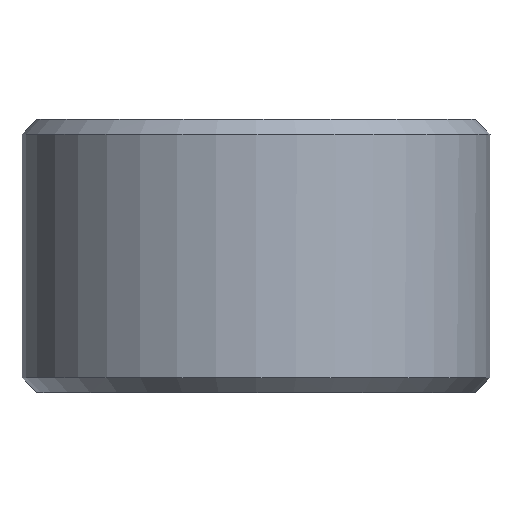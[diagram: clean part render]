
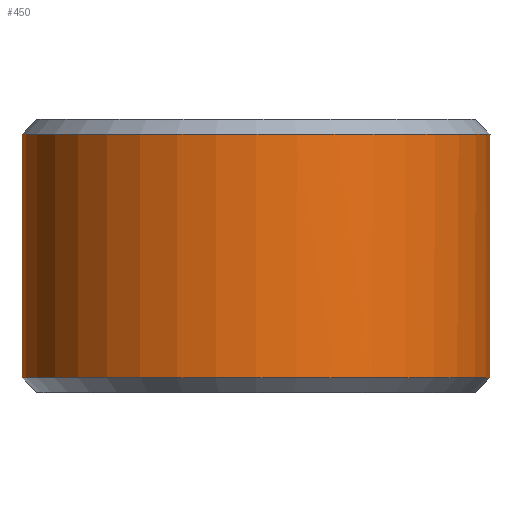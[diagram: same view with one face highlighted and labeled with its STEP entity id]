
A CAD part, left-side view. The second image highlights one B-rep face of the part: STEP entity #450.
In plain terms, the highlighted cylindrical face has radius 2.4 mm (diameter 4.8 mm), a full revolution.
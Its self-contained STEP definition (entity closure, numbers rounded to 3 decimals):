
#77 = PLANE('',#78);
#78 = AXIS2_PLACEMENT_3D('',#79,#80,#81);
#79 = CARTESIAN_POINT('',(-29.,38.5,190.2));
#80 = DIRECTION('',(0.,-1.,0.));
#81 = DIRECTION('',(-1.,0.,0.));
#106 = CONICAL_SURFACE('',#107,2.325,0.785);
#107 = AXIS2_PLACEMENT_3D('',#108,#109,#110);
#108 = CARTESIAN_POINT('',(-32.,39.,190.275));
#109 = DIRECTION('',(0.,0.,1.));
#110 = DIRECTION('',(-1.,0.,0.));
#132 = PLANE('',#133);
#133 = AXIS2_PLACEMENT_3D('',#134,#135,#136);
#134 = CARTESIAN_POINT('',(-32.,39.5,190.2));
#135 = DIRECTION('',(0.,1.,0.));
#136 = DIRECTION('',(1.,0.,0.));
#148 = VERTEX_POINT('',#149);
#149 = CARTESIAN_POINT('',(-29.653,39.5,190.35));
#171 = EDGE_CURVE('',#172,#148,#174,.T.);
#172 = VERTEX_POINT('',#173);
#173 = CARTESIAN_POINT('',(-29.653,39.5,190.7));
#174 = SURFACE_CURVE('',#175,(#179,#186),.PCURVE_S1.);
#175 = LINE('',#176,#177);
#176 = CARTESIAN_POINT('',(-29.653,39.5,190.2));
#177 = VECTOR('',#178,1.);
#178 = DIRECTION('',(0.,0.,-1.));
#179 = PCURVE('',#132,#180);
#180 = DEFINITIONAL_REPRESENTATION('',(#181),#185);
#181 = LINE('',#182,#183);
#182 = CARTESIAN_POINT('',(2.347,0.));
#183 = VECTOR('',#184,1.);
#184 = DIRECTION('',(0.,1.));
#185 = ( GEOMETRIC_REPRESENTATION_CONTEXT(2) 
PARAMETRIC_REPRESENTATION_CONTEXT() REPRESENTATION_CONTEXT('2D SPACE',''
  ) );
#186 = PCURVE('',#187,#192);
#187 = CYLINDRICAL_SURFACE('',#188,2.4);
#188 = AXIS2_PLACEMENT_3D('',#189,#190,#191);
#189 = CARTESIAN_POINT('',(-32.,39.,190.2));
#190 = DIRECTION('',(0.,0.,1.));
#191 = DIRECTION('',(0.,1.,0.));
#192 = DEFINITIONAL_REPRESENTATION('',(#193),#197);
#193 = LINE('',#194,#195);
#194 = CARTESIAN_POINT('',(4.922,0.));
#195 = VECTOR('',#196,1.);
#196 = DIRECTION('',(0.,-1.));
#197 = ( GEOMETRIC_REPRESENTATION_CONTEXT(2) 
PARAMETRIC_REPRESENTATION_CONTEXT() REPRESENTATION_CONTEXT('2D SPACE',''
  ) );
#215 = PLANE('',#216);
#216 = AXIS2_PLACEMENT_3D('',#217,#218,#219);
#217 = CARTESIAN_POINT('',(-32.,39.,190.7));
#218 = DIRECTION('',(0.,0.,-1.));
#219 = DIRECTION('',(0.,1.,0.));
#355 = VERTEX_POINT('',#356);
#356 = CARTESIAN_POINT('',(-29.653,38.5,190.7));
#377 = EDGE_CURVE('',#355,#378,#380,.T.);
#378 = VERTEX_POINT('',#379);
#379 = CARTESIAN_POINT('',(-29.653,38.5,190.35));
#380 = SURFACE_CURVE('',#381,(#385,#392),.PCURVE_S1.);
#381 = LINE('',#382,#383);
#382 = CARTESIAN_POINT('',(-29.653,38.5,190.2));
#383 = VECTOR('',#384,1.);
#384 = DIRECTION('',(0.,0.,-1.));
#385 = PCURVE('',#77,#386);
#386 = DEFINITIONAL_REPRESENTATION('',(#387),#391);
#387 = LINE('',#388,#389);
#388 = CARTESIAN_POINT('',(0.653,-0.));
#389 = VECTOR('',#390,1.);
#390 = DIRECTION('',(-0.,1.));
#391 = ( GEOMETRIC_REPRESENTATION_CONTEXT(2) 
PARAMETRIC_REPRESENTATION_CONTEXT() REPRESENTATION_CONTEXT('2D SPACE',''
  ) );
#392 = PCURVE('',#187,#393);
#393 = DEFINITIONAL_REPRESENTATION('',(#394),#398);
#394 = LINE('',#395,#396);
#395 = CARTESIAN_POINT('',(10.786,0.));
#396 = VECTOR('',#397,1.);
#397 = DIRECTION('',(0.,-1.));
#398 = ( GEOMETRIC_REPRESENTATION_CONTEXT(2) 
PARAMETRIC_REPRESENTATION_CONTEXT() REPRESENTATION_CONTEXT('2D SPACE',''
  ) );
#426 = EDGE_CURVE('',#148,#378,#427,.T.);
#427 = SURFACE_CURVE('',#428,(#433,#440),.PCURVE_S1.);
#428 = CIRCLE('',#429,2.4);
#429 = AXIS2_PLACEMENT_3D('',#430,#431,#432);
#430 = CARTESIAN_POINT('',(-32.,39.,190.35));
#431 = DIRECTION('',(0.,0.,1.));
#432 = DIRECTION('',(1.,0.,0.));
#433 = PCURVE('',#106,#434);
#434 = DEFINITIONAL_REPRESENTATION('',(#435),#439);
#435 = LINE('',#436,#437);
#436 = CARTESIAN_POINT('',(3.142,0.075));
#437 = VECTOR('',#438,1.);
#438 = DIRECTION('',(1.,0.));
#439 = ( GEOMETRIC_REPRESENTATION_CONTEXT(2) 
PARAMETRIC_REPRESENTATION_CONTEXT() REPRESENTATION_CONTEXT('2D SPACE',''
  ) );
#440 = PCURVE('',#187,#441);
#441 = DEFINITIONAL_REPRESENTATION('',(#442),#446);
#442 = LINE('',#443,#444);
#443 = CARTESIAN_POINT('',(4.712,0.15));
#444 = VECTOR('',#445,1.);
#445 = DIRECTION('',(1.,0.));
#446 = ( GEOMETRIC_REPRESENTATION_CONTEXT(2) 
PARAMETRIC_REPRESENTATION_CONTEXT() REPRESENTATION_CONTEXT('2D SPACE',''
  ) );
#450 = ADVANCED_FACE('',(#451),#187,.T.);
#451 = FACE_BOUND('',#452,.T.);
#452 = EDGE_LOOP('',(#453,#484,#504,#505,#506,#507,#533,#534,#558));
#453 = ORIENTED_EDGE('',*,*,#454,.F.);
#454 = EDGE_CURVE('',#455,#457,#459,.T.);
#455 = VERTEX_POINT('',#456);
#456 = CARTESIAN_POINT('',(-29.653,39.5,192.85));
#457 = VERTEX_POINT('',#458);
#458 = CARTESIAN_POINT('',(-34.4,39.,192.85));
#459 = SURFACE_CURVE('',#460,(#465,#472),.PCURVE_S1.);
#460 = CIRCLE('',#461,2.4);
#461 = AXIS2_PLACEMENT_3D('',#462,#463,#464);
#462 = CARTESIAN_POINT('',(-32.,39.,192.85));
#463 = DIRECTION('',(0.,0.,1.));
#464 = DIRECTION('',(1.,0.,0.));
#465 = PCURVE('',#187,#466);
#466 = DEFINITIONAL_REPRESENTATION('',(#467),#471);
#467 = LINE('',#468,#469);
#468 = CARTESIAN_POINT('',(4.712,2.65));
#469 = VECTOR('',#470,1.);
#470 = DIRECTION('',(1.,0.));
#471 = ( GEOMETRIC_REPRESENTATION_CONTEXT(2) 
PARAMETRIC_REPRESENTATION_CONTEXT() REPRESENTATION_CONTEXT('2D SPACE',''
  ) );
#472 = PCURVE('',#473,#478);
#473 = CONICAL_SURFACE('',#474,2.325,0.785);
#474 = AXIS2_PLACEMENT_3D('',#475,#476,#477);
#475 = CARTESIAN_POINT('',(-32.,39.,192.925));
#476 = DIRECTION('',(0.,0.,-1.));
#477 = DIRECTION('',(-1.,0.,-0.));
#478 = DEFINITIONAL_REPRESENTATION('',(#479),#483);
#479 = LINE('',#480,#481);
#480 = CARTESIAN_POINT('',(3.142,0.075));
#481 = VECTOR('',#482,1.);
#482 = DIRECTION('',(-1.,0.));
#483 = ( GEOMETRIC_REPRESENTATION_CONTEXT(2) 
PARAMETRIC_REPRESENTATION_CONTEXT() REPRESENTATION_CONTEXT('2D SPACE',''
  ) );
#484 = ORIENTED_EDGE('',*,*,#485,.F.);
#485 = EDGE_CURVE('',#172,#455,#486,.T.);
#486 = SEAM_CURVE('',#487,(#490,#497),.PCURVE_S1.);
#487 = B_SPLINE_CURVE_WITH_KNOTS('',1,(#488,#489),.UNSPECIFIED.,.F.,.F.,
  (2,2),(0.5,2.65),.PIECEWISE_BEZIER_KNOTS.);
#488 = CARTESIAN_POINT('',(-29.653,39.5,190.7));
#489 = CARTESIAN_POINT('',(-29.653,39.5,192.85));
#490 = PCURVE('',#187,#491);
#491 = DEFINITIONAL_REPRESENTATION('',(#492),#496);
#492 = LINE('',#493,#494);
#493 = CARTESIAN_POINT('',(4.922,0.));
#494 = VECTOR('',#495,1.);
#495 = DIRECTION('',(0.,1.));
#496 = ( GEOMETRIC_REPRESENTATION_CONTEXT(2) 
PARAMETRIC_REPRESENTATION_CONTEXT() REPRESENTATION_CONTEXT('2D SPACE',''
  ) );
#497 = PCURVE('',#187,#498);
#498 = DEFINITIONAL_REPRESENTATION('',(#499),#503);
#499 = LINE('',#500,#501);
#500 = CARTESIAN_POINT('',(11.205,0.));
#501 = VECTOR('',#502,1.);
#502 = DIRECTION('',(0.,1.));
#503 = ( GEOMETRIC_REPRESENTATION_CONTEXT(2) 
PARAMETRIC_REPRESENTATION_CONTEXT() REPRESENTATION_CONTEXT('2D SPACE',''
  ) );
#504 = ORIENTED_EDGE('',*,*,#171,.T.);
#505 = ORIENTED_EDGE('',*,*,#426,.T.);
#506 = ORIENTED_EDGE('',*,*,#377,.F.);
#507 = ORIENTED_EDGE('',*,*,#508,.T.);
#508 = EDGE_CURVE('',#355,#172,#509,.T.);
#509 = SURFACE_CURVE('',#510,(#515,#522),.PCURVE_S1.);
#510 = CIRCLE('',#511,2.4);
#511 = AXIS2_PLACEMENT_3D('',#512,#513,#514);
#512 = CARTESIAN_POINT('',(-32.,39.,190.7));
#513 = DIRECTION('',(0.,0.,1.));
#514 = DIRECTION('',(1.,0.,0.));
#515 = PCURVE('',#187,#516);
#516 = DEFINITIONAL_REPRESENTATION('',(#517),#521);
#517 = LINE('',#518,#519);
#518 = CARTESIAN_POINT('',(4.712,0.5));
#519 = VECTOR('',#520,1.);
#520 = DIRECTION('',(1.,0.));
#521 = ( GEOMETRIC_REPRESENTATION_CONTEXT(2) 
PARAMETRIC_REPRESENTATION_CONTEXT() REPRESENTATION_CONTEXT('2D SPACE',''
  ) );
#522 = PCURVE('',#215,#523);
#523 = DEFINITIONAL_REPRESENTATION('',(#524),#532);
#524 = ( BOUNDED_CURVE() B_SPLINE_CURVE(2,(#525,#526,#527,#528,#529,#530
,#531),.UNSPECIFIED.,.T.,.F.) B_SPLINE_CURVE_WITH_KNOTS((1,2,2,2,2,1),(
    -2.094,0.,2.094,4.189,6.283,
8.378),.UNSPECIFIED.) CURVE() GEOMETRIC_REPRESENTATION_ITEM() 
RATIONAL_B_SPLINE_CURVE((1.,0.5,1.,0.5,1.,0.5,1.)) REPRESENTATION_ITEM(
  '') );
#525 = CARTESIAN_POINT('',(0.,2.4));
#526 = CARTESIAN_POINT('',(4.157,2.4));
#527 = CARTESIAN_POINT('',(2.078,-1.2));
#528 = CARTESIAN_POINT('',(0.,-4.8));
#529 = CARTESIAN_POINT('',(-2.078,-1.2));
#530 = CARTESIAN_POINT('',(-4.157,2.4));
#531 = CARTESIAN_POINT('',(0.,2.4));
#532 = ( GEOMETRIC_REPRESENTATION_CONTEXT(2) 
PARAMETRIC_REPRESENTATION_CONTEXT() REPRESENTATION_CONTEXT('2D SPACE',''
  ) );
#533 = ORIENTED_EDGE('',*,*,#485,.T.);
#534 = ORIENTED_EDGE('',*,*,#535,.F.);
#535 = EDGE_CURVE('',#536,#455,#538,.T.);
#536 = VERTEX_POINT('',#537);
#537 = CARTESIAN_POINT('',(-29.6,39.,192.85));
#538 = SURFACE_CURVE('',#539,(#544,#551),.PCURVE_S1.);
#539 = CIRCLE('',#540,2.4);
#540 = AXIS2_PLACEMENT_3D('',#541,#542,#543);
#541 = CARTESIAN_POINT('',(-32.,39.,192.85));
#542 = DIRECTION('',(0.,0.,1.));
#543 = DIRECTION('',(1.,0.,0.));
#544 = PCURVE('',#187,#545);
#545 = DEFINITIONAL_REPRESENTATION('',(#546),#550);
#546 = LINE('',#547,#548);
#547 = CARTESIAN_POINT('',(10.996,2.65));
#548 = VECTOR('',#549,1.);
#549 = DIRECTION('',(1.,0.));
#550 = ( GEOMETRIC_REPRESENTATION_CONTEXT(2) 
PARAMETRIC_REPRESENTATION_CONTEXT() REPRESENTATION_CONTEXT('2D SPACE',''
  ) );
#551 = PCURVE('',#473,#552);
#552 = DEFINITIONAL_REPRESENTATION('',(#553),#557);
#553 = LINE('',#554,#555);
#554 = CARTESIAN_POINT('',(3.142,0.075));
#555 = VECTOR('',#556,1.);
#556 = DIRECTION('',(-1.,0.));
#557 = ( GEOMETRIC_REPRESENTATION_CONTEXT(2) 
PARAMETRIC_REPRESENTATION_CONTEXT() REPRESENTATION_CONTEXT('2D SPACE',''
  ) );
#558 = ORIENTED_EDGE('',*,*,#559,.F.);
#559 = EDGE_CURVE('',#457,#536,#560,.T.);
#560 = SURFACE_CURVE('',#561,(#566,#573),.PCURVE_S1.);
#561 = CIRCLE('',#562,2.4);
#562 = AXIS2_PLACEMENT_3D('',#563,#564,#565);
#563 = CARTESIAN_POINT('',(-32.,39.,192.85));
#564 = DIRECTION('',(0.,0.,1.));
#565 = DIRECTION('',(1.,0.,0.));
#566 = PCURVE('',#187,#567);
#567 = DEFINITIONAL_REPRESENTATION('',(#568),#572);
#568 = LINE('',#569,#570);
#569 = CARTESIAN_POINT('',(4.712,2.65));
#570 = VECTOR('',#571,1.);
#571 = DIRECTION('',(1.,0.));
#572 = ( GEOMETRIC_REPRESENTATION_CONTEXT(2) 
PARAMETRIC_REPRESENTATION_CONTEXT() REPRESENTATION_CONTEXT('2D SPACE',''
  ) );
#573 = PCURVE('',#473,#574);
#574 = DEFINITIONAL_REPRESENTATION('',(#575),#579);
#575 = LINE('',#576,#577);
#576 = CARTESIAN_POINT('',(9.425,0.075));
#577 = VECTOR('',#578,1.);
#578 = DIRECTION('',(-1.,0.));
#579 = ( GEOMETRIC_REPRESENTATION_CONTEXT(2) 
PARAMETRIC_REPRESENTATION_CONTEXT() REPRESENTATION_CONTEXT('2D SPACE',''
  ) );
